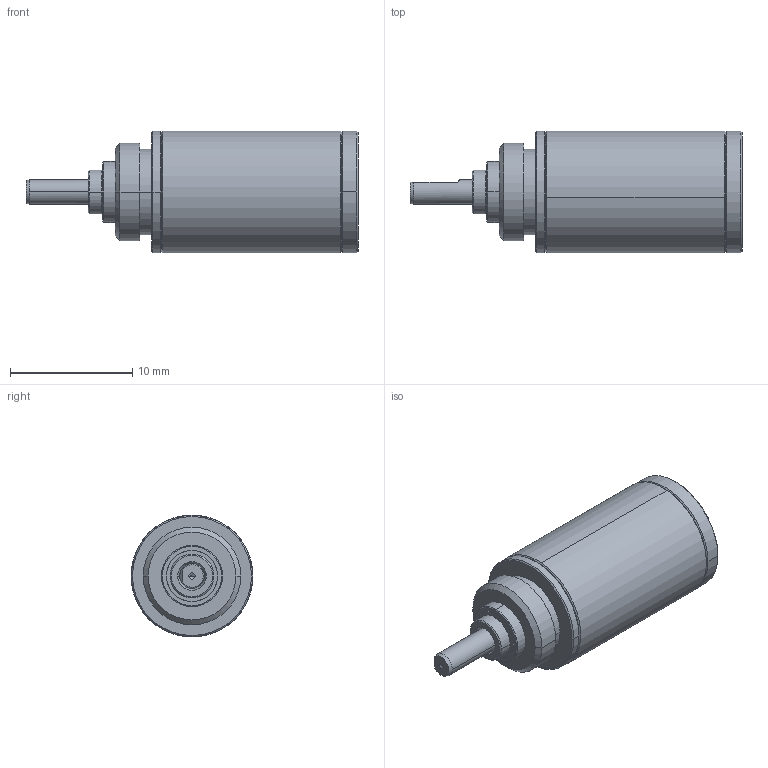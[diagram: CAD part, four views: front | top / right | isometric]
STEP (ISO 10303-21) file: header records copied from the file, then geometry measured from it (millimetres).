
FILE_DESCRIPTION((''),'2;1');
FILE_NAME('218417_GP10A_0_1NM_3ST_KL','2017-01-11T',('mmagpetk'),(''),'CREO PARAMETRIC BY PTC INC, 2016050','CREO PARAMETRIC BY PTC INC, 2016050','');
FILE_SCHEMA(('CONFIG_CONTROL_DESIGN'));
Length unit declared in the file: millimetre
Products named in the file (1): 218417_GP10A_0_1NM_3ST_KL
Bounding box: 27.2 x 9.96 x 9.96 mm (x, y, z)
Volume: 1483.1 mm3; surface area: 863.8 mm2
Topology: 1 solids, 1 shells, 63 faces, 143 edges, 91 vertices
Faces by surface type: cone 25, cylinder 22, plane 14, torus 2
Entity records: 2516 total; most frequent: DIRECTION 350, CARTESIAN_POINT 310, ORIENTED_EDGE 282, PRESENTATION_STYLE_ASSIGNMENT 157, AXIS2_PLACEMENT_3D 150, STYLED_ITEM 142, CURVE_STYLE 141, EDGE_CURVE 141
